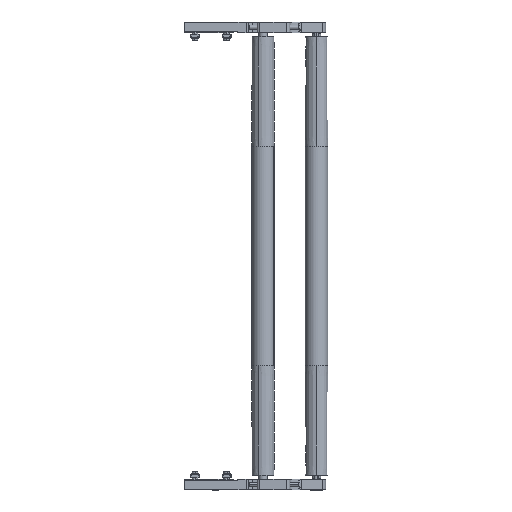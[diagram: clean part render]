
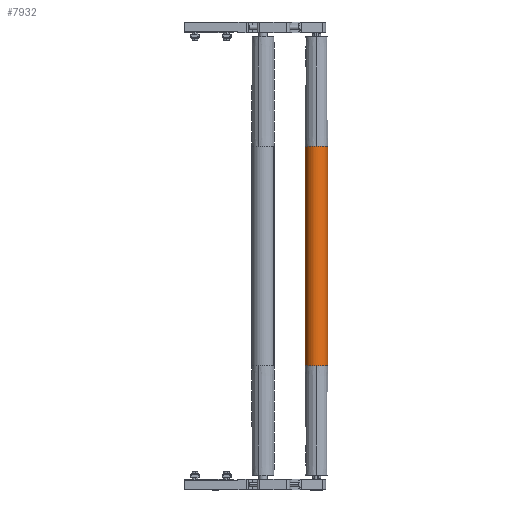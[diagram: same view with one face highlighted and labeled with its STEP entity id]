
A CAD part, front view. The second image highlights one B-rep face of the part: STEP entity #7932.
In plain terms, the highlighted cylindrical face has radius 16 mm (diameter 32 mm), a partial arc.
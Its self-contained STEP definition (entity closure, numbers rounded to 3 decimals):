
#212 = CIRCLE ( 'NONE', #18125, 16. ) ;
#378 = DIRECTION ( 'NONE',  ( 0., -1., 0. ) ) ;
#577 = DIRECTION ( 'NONE',  ( 0., 0., 1. ) ) ;
#626 = DIRECTION ( 'NONE',  ( 0., 0., 1. ) ) ;
#677 = DIRECTION ( 'NONE',  ( 0., 0., 1. ) ) ;
#756 = ORIENTED_EDGE ( 'NONE', *, *, #14208, .T. ) ;
#763 = AXIS2_PLACEMENT_3D ( 'NONE', #10920, #577, #12653 ) ;
#1570 = CARTESIAN_POINT ( 'NONE',  ( 171., 77., 155. ) ) ;
#1754 = FACE_OUTER_BOUND ( 'NONE', #3376, .T. ) ;
#3095 = CARTESIAN_POINT ( 'NONE',  ( 187., 77., 310. ) ) ;
#3356 = ORIENTED_EDGE ( 'NONE', *, *, #5499, .T. ) ;
#3376 = EDGE_LOOP ( 'NONE', ( #15850, #21298, #16006, #15452, #3356, #756 ) ) ;
#3540 = CARTESIAN_POINT ( 'NONE',  ( 203., 77., 155. ) ) ;
#3993 = CARTESIAN_POINT ( 'NONE',  ( 203., 77., -155. ) ) ;
#4485 = AXIS2_PLACEMENT_3D ( 'NONE', #11016, #677, #12751 ) ;
#4551 = CARTESIAN_POINT ( 'NONE',  ( 171., 77., -155. ) ) ;
#5499 = EDGE_CURVE ( 'NONE', #16635, #12865, #6214, .T. ) ;
#6067 = LINE ( 'NONE', #8899, #11706 ) ;
#6214 = CIRCLE ( 'NONE', #15701, 16. ) ;
#6393 = CARTESIAN_POINT ( 'NONE',  ( 203., 77., 310. ) ) ;
#7932 = ADVANCED_FACE ( 'NONE', ( #1754 ), #10400, .T. ) ;
#8299 = DIRECTION ( 'NONE',  ( -1., 0., 0. ) ) ;
#8397 = VERTEX_POINT ( 'NONE', #17191 ) ;
#8899 = CARTESIAN_POINT ( 'NONE',  ( 171., 77., 310. ) ) ;
#8993 = EDGE_CURVE ( 'NONE', #21121, #16635, #6067, .T. ) ;
#9483 = CIRCLE ( 'NONE', #763, 16. ) ;
#10400 = CYLINDRICAL_SURFACE ( 'NONE', #13478, 16. ) ;
#10634 = DIRECTION ( 'NONE',  ( 0., 0., -1. ) ) ;
#10735 = DIRECTION ( 'NONE',  ( 0., 0., 1. ) ) ;
#10920 = CARTESIAN_POINT ( 'NONE',  ( 187., 77., 155. ) ) ;
#10962 = CARTESIAN_POINT ( 'NONE',  ( 187., 77., -155. ) ) ;
#11016 = CARTESIAN_POINT ( 'NONE',  ( 187., 77., -155. ) ) ;
#11298 = VERTEX_POINT ( 'NONE', #3540 ) ;
#11706 = VECTOR ( 'NONE', #10634, 1000. ) ;
#12653 = DIRECTION ( 'NONE',  ( 0., -1., 0. ) ) ;
#12696 = DIRECTION ( 'NONE',  ( 0., -1., 0. ) ) ;
#12751 = DIRECTION ( 'NONE',  ( 0., -1., 0. ) ) ;
#12865 = VERTEX_POINT ( 'NONE', #22056 ) ;
#13470 = VECTOR ( 'NONE', #16616, 1000. ) ;
#13478 = AXIS2_PLACEMENT_3D ( 'NONE', #3095, #15178, #8299 ) ;
#14208 = EDGE_CURVE ( 'NONE', #12865, #21444, #18851, .T. ) ;
#15178 = DIRECTION ( 'NONE',  ( 0., 0., -1. ) ) ;
#15452 = ORIENTED_EDGE ( 'NONE', *, *, #8993, .T. ) ;
#15701 = AXIS2_PLACEMENT_3D ( 'NONE', #10962, #626, #12696 ) ;
#15850 = ORIENTED_EDGE ( 'NONE', *, *, #18616, .F. ) ;
#16006 = ORIENTED_EDGE ( 'NONE', *, *, #17491, .F. ) ;
#16616 = DIRECTION ( 'NONE',  ( 0., 0., -1. ) ) ;
#16635 = VERTEX_POINT ( 'NONE', #4551 ) ;
#17191 = CARTESIAN_POINT ( 'NONE',  ( 187., 61., 155. ) ) ;
#17491 = EDGE_CURVE ( 'NONE', #21121, #8397, #9483, .T. ) ;
#17902 = LINE ( 'NONE', #6393, #13470 ) ;
#18125 = AXIS2_PLACEMENT_3D ( 'NONE', #20740, #10735, #378 ) ;
#18616 = EDGE_CURVE ( 'NONE', #11298, #21444, #17902, .T. ) ;
#18851 = CIRCLE ( 'NONE', #4485, 16. ) ;
#20218 = EDGE_CURVE ( 'NONE', #8397, #11298, #212, .T. ) ;
#20740 = CARTESIAN_POINT ( 'NONE',  ( 187., 77., 155. ) ) ;
#21121 = VERTEX_POINT ( 'NONE', #1570 ) ;
#21298 = ORIENTED_EDGE ( 'NONE', *, *, #20218, .F. ) ;
#21444 = VERTEX_POINT ( 'NONE', #3993 ) ;
#22056 = CARTESIAN_POINT ( 'NONE',  ( 187., 61., -155. ) ) ;
